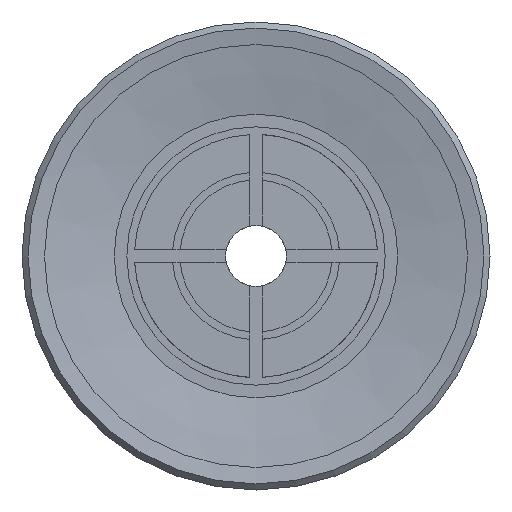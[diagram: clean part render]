
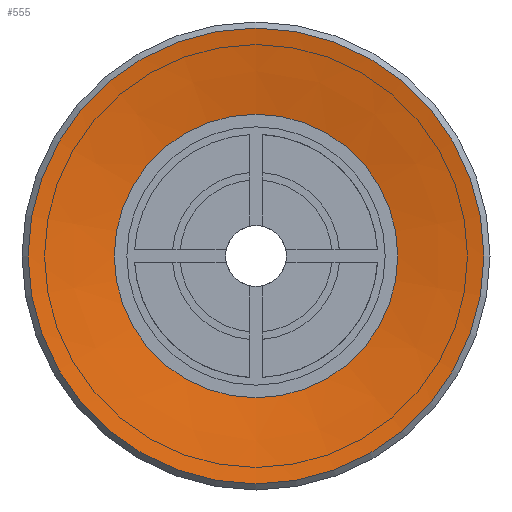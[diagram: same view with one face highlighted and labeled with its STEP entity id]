
A CAD part, front view. The second image highlights one B-rep face of the part: STEP entity #555.
In plain terms, the highlighted conical face has half-angle 80 degrees and reference radius 4.664 mm.
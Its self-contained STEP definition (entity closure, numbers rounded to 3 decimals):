
#555=ADVANCED_FACE('',(#846,#847),#848,.F.);
#846=FACE_BOUND('',#1211,.T.);
#847=FACE_OUTER_BOUND('',#1212,.T.);
#848=CONICAL_SURFACE('',#1213,4.664,1.396);
#1211=EDGE_LOOP('',(#2034));
#1212=EDGE_LOOP('',(#2035));
#1213=AXIS2_PLACEMENT_3D('',#2036,#2037,#2038);
#2034=ORIENTED_EDGE('',*,*,#2570,.F.);
#2035=ORIENTED_EDGE('',*,*,#2571,.T.);
#2036=CARTESIAN_POINT('',(0.0,0.5,0.0));
#2037=DIRECTION('',(-0.0,-1.0,0.));
#2038=DIRECTION('',(0.0,0.,-1.0));
#2570=EDGE_CURVE('',#3005,#3005,#3006,.T.);
#2571=EDGE_CURVE('',#3007,#3007,#3008,.T.);
#3005=VERTEX_POINT('',#3900);
#3006=CIRCLE('',#3901,4.664);
#3007=VERTEX_POINT('',#3902);
#3008=CIRCLE('',#3903,7.5);
#3900=CARTESIAN_POINT('',(0.0,0.5,-4.664));
#3901=AXIS2_PLACEMENT_3D('',#4380,#4381,#4382);
#3902=CARTESIAN_POINT('',(0.0,0.,-7.5));
#3903=AXIS2_PLACEMENT_3D('',#4383,#4384,#4385);
#4380=CARTESIAN_POINT('',(0.0,0.5,0.0));
#4381=DIRECTION('',(0.0,-1.0,0.));
#4382=DIRECTION('',(0.0,0.,-1.0));
#4383=CARTESIAN_POINT('',(0.0,0.0,0.0));
#4384=DIRECTION('',(0.0,-1.0,0.));
#4385=DIRECTION('',(0.0,0.,-1.0));
